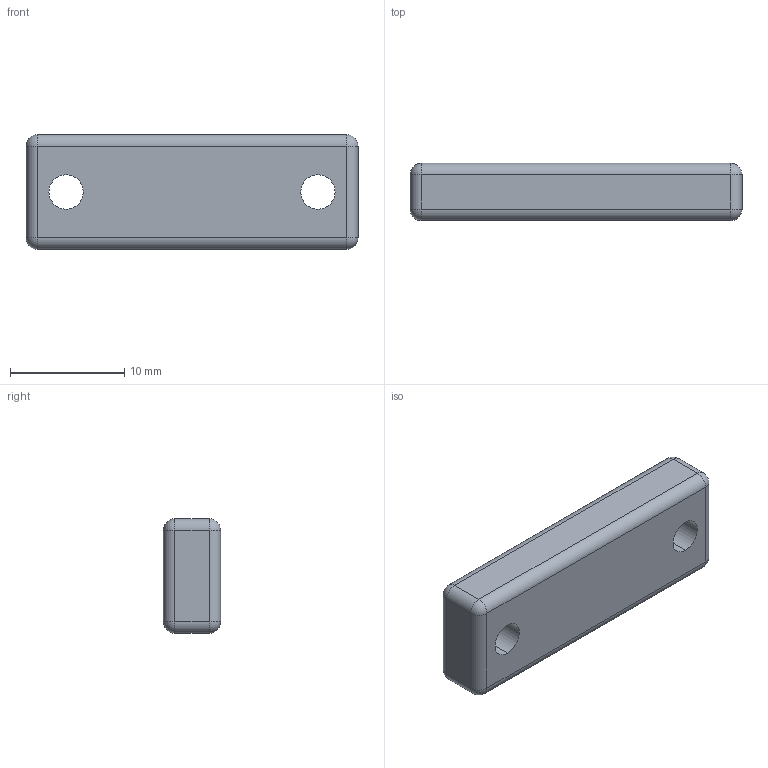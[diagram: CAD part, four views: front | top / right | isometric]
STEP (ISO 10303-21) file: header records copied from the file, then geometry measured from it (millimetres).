
FILE_DESCRIPTION (( 'STEP AP203' ), '1' );
FILE_NAME ('Servo To Steering.STEP', '2026-01-17T21:10:55', ( '' ), ( '' ), 'SwSTEP 2.0', 'SolidWorks 2026', '' );
FILE_SCHEMA (( 'CONFIG_CONTROL_DESIGN' ));
Length unit declared in the file: millimetre
Products named in the file (1): Servo To Steering
Bounding box: 29 x 5 x 10 mm (x, y, z)
Volume: 1342.9 mm3; surface area: 959.3 mm2
Topology: 1 solids, 1 shells, 30 faces, 68 edges, 32 vertices
Faces by surface type: cylinder 16, sphere 8, plane 6
Entity records: 847 total; most frequent: DIRECTION 154, CARTESIAN_POINT 123, ORIENTED_EDGE 120, AXIS2_PLACEMENT_3D 63, EDGE_CURVE 60, EDGE_LOOP 34, VERTEX_POINT 32, CIRCLE 32
